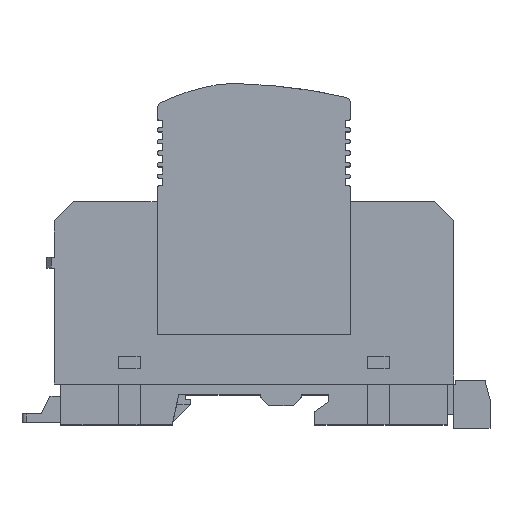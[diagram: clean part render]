
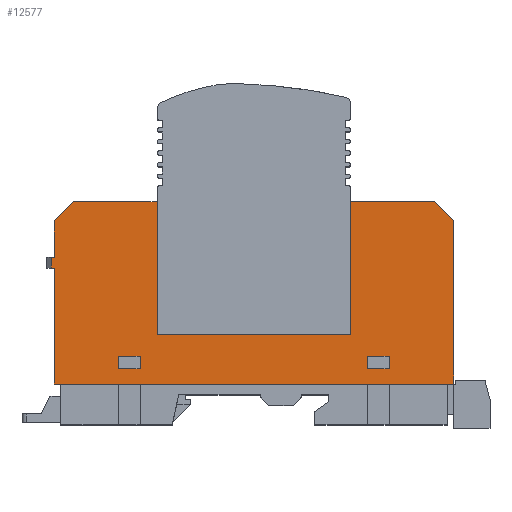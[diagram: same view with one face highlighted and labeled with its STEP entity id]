
A CAD part, top view. The second image highlights one B-rep face of the part: STEP entity #12577.
In plain terms, the highlighted planar face has unit normal (0, 0, 1).
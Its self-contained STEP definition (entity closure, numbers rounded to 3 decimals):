
#124=FACE_BOUND('',#1487,.T.);
#125=FACE_BOUND('',#1488,.T.);
#778=FACE_OUTER_BOUND('',#1486,.T.);
#1486=EDGE_LOOP('',(#9028,#9029,#9030,#9031,#9032,#9033,#9034,#9035,#9036,
#9037,#9038,#9039,#9040,#9041));
#1487=EDGE_LOOP('',(#9042,#9043,#9044,#9045));
#1488=EDGE_LOOP('',(#9046,#9047,#9048,#9049));
#2225=LINE('',#18177,#3717);
#2229=LINE('',#18185,#3721);
#2232=LINE('',#18191,#3724);
#2235=LINE('',#18196,#3727);
#2237=LINE('',#18202,#3729);
#2241=LINE('',#18210,#3733);
#2244=LINE('',#18216,#3736);
#2247=LINE('',#18221,#3739);
#2354=LINE('',#18437,#3846);
#2409=LINE('',#18548,#3901);
#2464=LINE('',#18659,#3956);
#2510=LINE('',#18766,#4002);
#2517=LINE('',#18784,#4009);
#2537=LINE('',#18838,#4029);
#2539=LINE('',#18843,#4031);
#2541=LINE('',#18846,#4033);
#2542=LINE('',#18847,#4034);
#2543=LINE('',#18848,#4035);
#2544=LINE('',#18850,#4036);
#2545=LINE('',#18852,#4037);
#2546=LINE('',#18853,#4038);
#2547=LINE('',#18854,#4039);
#3717=VECTOR('',#14649,10.);
#3721=VECTOR('',#14655,10.);
#3724=VECTOR('',#14660,10.);
#3727=VECTOR('',#14665,10.);
#3729=VECTOR('',#14671,10.);
#3733=VECTOR('',#14677,10.);
#3736=VECTOR('',#14682,10.);
#3739=VECTOR('',#14687,10.);
#3846=VECTOR('',#14866,10.);
#3901=VECTOR('',#14959,10.);
#3956=VECTOR('',#15052,10.);
#4002=VECTOR('',#15170,10.);
#4009=VECTOR('',#15185,10.);
#4029=VECTOR('',#15243,10.);
#4031=VECTOR('',#15247,10.);
#4033=VECTOR('',#15251,10.);
#4034=VECTOR('',#15252,10.);
#4035=VECTOR('',#15253,10.);
#4036=VECTOR('',#15254,10.);
#4037=VECTOR('',#15255,10.);
#4038=VECTOR('',#15256,10.);
#4039=VECTOR('',#15257,10.);
#5148=VERTEX_POINT('',#18175);
#5149=VERTEX_POINT('',#18176);
#5152=VERTEX_POINT('',#18184);
#5154=VERTEX_POINT('',#18190);
#5156=VERTEX_POINT('',#18200);
#5157=VERTEX_POINT('',#18201);
#5160=VERTEX_POINT('',#18209);
#5162=VERTEX_POINT('',#18215);
#5235=VERTEX_POINT('',#18434);
#5236=VERTEX_POINT('',#18436);
#5272=VERTEX_POINT('',#18545);
#5273=VERTEX_POINT('',#18547);
#5309=VERTEX_POINT('',#18656);
#5310=VERTEX_POINT('',#18658);
#5334=VERTEX_POINT('',#18763);
#5335=VERTEX_POINT('',#18765);
#5339=VERTEX_POINT('',#18777);
#5342=VERTEX_POINT('',#18782);
#5357=VERTEX_POINT('',#18836);
#5359=VERTEX_POINT('',#18841);
#5360=VERTEX_POINT('',#18849);
#5361=VERTEX_POINT('',#18851);
#6412=EDGE_CURVE('',#5148,#5149,#2225,.T.);
#6416=EDGE_CURVE('',#5149,#5152,#2229,.T.);
#6419=EDGE_CURVE('',#5152,#5154,#2232,.T.);
#6422=EDGE_CURVE('',#5154,#5148,#2235,.T.);
#6424=EDGE_CURVE('',#5156,#5157,#2237,.T.);
#6428=EDGE_CURVE('',#5157,#5160,#2241,.T.);
#6431=EDGE_CURVE('',#5160,#5162,#2244,.T.);
#6434=EDGE_CURVE('',#5162,#5156,#2247,.T.);
#6541=EDGE_CURVE('',#5236,#5235,#2354,.T.);
#6596=EDGE_CURVE('',#5273,#5272,#2409,.T.);
#6651=EDGE_CURVE('',#5310,#5309,#2464,.T.);
#6700=EDGE_CURVE('',#5335,#5334,#2510,.T.);
#6709=EDGE_CURVE('',#5339,#5342,#2517,.T.);
#6736=EDGE_CURVE('',#5235,#5357,#2537,.T.);
#6738=EDGE_CURVE('',#5359,#5357,#2539,.T.);
#6740=EDGE_CURVE('',#5359,#5273,#2541,.T.);
#6741=EDGE_CURVE('',#5272,#5310,#2542,.T.);
#6742=EDGE_CURVE('',#5309,#5335,#2543,.T.);
#6743=EDGE_CURVE('',#5334,#5360,#2544,.T.);
#6744=EDGE_CURVE('',#5360,#5361,#2545,.T.);
#6745=EDGE_CURVE('',#5361,#5339,#2546,.T.);
#6746=EDGE_CURVE('',#5342,#5236,#2547,.T.);
#9028=ORIENTED_EDGE('',*,*,#6738,.F.);
#9029=ORIENTED_EDGE('',*,*,#6740,.T.);
#9030=ORIENTED_EDGE('',*,*,#6596,.T.);
#9031=ORIENTED_EDGE('',*,*,#6741,.T.);
#9032=ORIENTED_EDGE('',*,*,#6651,.T.);
#9033=ORIENTED_EDGE('',*,*,#6742,.T.);
#9034=ORIENTED_EDGE('',*,*,#6700,.T.);
#9035=ORIENTED_EDGE('',*,*,#6743,.T.);
#9036=ORIENTED_EDGE('',*,*,#6744,.T.);
#9037=ORIENTED_EDGE('',*,*,#6745,.T.);
#9038=ORIENTED_EDGE('',*,*,#6709,.T.);
#9039=ORIENTED_EDGE('',*,*,#6746,.T.);
#9040=ORIENTED_EDGE('',*,*,#6541,.T.);
#9041=ORIENTED_EDGE('',*,*,#6736,.T.);
#9042=ORIENTED_EDGE('',*,*,#6412,.T.);
#9043=ORIENTED_EDGE('',*,*,#6416,.T.);
#9044=ORIENTED_EDGE('',*,*,#6419,.T.);
#9045=ORIENTED_EDGE('',*,*,#6422,.T.);
#9046=ORIENTED_EDGE('',*,*,#6424,.T.);
#9047=ORIENTED_EDGE('',*,*,#6428,.T.);
#9048=ORIENTED_EDGE('',*,*,#6431,.T.);
#9049=ORIENTED_EDGE('',*,*,#6434,.T.);
#11768=PLANE('',#13447);
#12577=ADVANCED_FACE('',(#778,#124,#125),#11768,.T.);
#13447=AXIS2_PLACEMENT_3D('',#18845,#15249,#15250);
#14649=DIRECTION('',(0.,-1.,0.));
#14655=DIRECTION('',(-1.,0.,0.));
#14660=DIRECTION('',(0.,1.,0.));
#14665=DIRECTION('',(1.,0.,0.));
#14671=DIRECTION('',(0.,-1.,0.));
#14677=DIRECTION('',(-1.,0.,0.));
#14682=DIRECTION('',(0.,1.,0.));
#14687=DIRECTION('',(1.,0.,0.));
#14866=DIRECTION('',(0.,-1.,0.));
#14959=DIRECTION('',(0.,-1.,0.));
#15052=DIRECTION('',(0.,1.,0.));
#15170=DIRECTION('',(-1.,0.,0.));
#15185=DIRECTION('',(-1.,0.,0.));
#15243=DIRECTION('',(-1.,0.,0.));
#15247=DIRECTION('',(0.,1.,0.));
#15249=DIRECTION('center_axis',(0.,0.,1.));
#15250=DIRECTION('ref_axis',(1.,0.,0.));
#15251=DIRECTION('',(1.,0.,0.));
#15252=DIRECTION('',(1.,0.,0.));
#15253=DIRECTION('',(-0.707,0.707,0.));
#15254=DIRECTION('',(0.,-1.,0.));
#15255=DIRECTION('',(-1.,0.,0.));
#15256=DIRECTION('',(0.,1.,0.));
#15257=DIRECTION('',(-0.707,-0.707,0.));
#18175=CARTESIAN_POINT('',(-26.5,-23.75,53.));
#18176=CARTESIAN_POINT('',(-26.5,-26.75,53.));
#18177=CARTESIAN_POINT('',(-26.5,-17.235,53.));
#18184=CARTESIAN_POINT('',(-31.5,-26.75,53.));
#18185=CARTESIAN_POINT('',(-15.81,-26.75,53.));
#18190=CARTESIAN_POINT('',(-31.5,-23.75,53.));
#18191=CARTESIAN_POINT('',(-31.5,-15.735,53.));
#18196=CARTESIAN_POINT('',(-13.31,-23.75,53.));
#18200=CARTESIAN_POINT('',(31.5,-23.75,53.));
#18201=CARTESIAN_POINT('',(31.5,-26.75,53.));
#18202=CARTESIAN_POINT('',(31.5,-17.235,53.));
#18209=CARTESIAN_POINT('',(26.5,-26.75,53.));
#18210=CARTESIAN_POINT('',(13.19,-26.75,53.));
#18215=CARTESIAN_POINT('',(26.5,-23.75,53.));
#18216=CARTESIAN_POINT('',(26.5,-15.735,53.));
#18221=CARTESIAN_POINT('',(15.69,-23.75,53.));
#18434=CARTESIAN_POINT('',(-46.5,-0.75,53.));
#18436=CARTESIAN_POINT('',(-46.5,7.75,53.));
#18437=CARTESIAN_POINT('',(-46.5,7.75,53.));
#18545=CARTESIAN_POINT('',(-46.5,-30.25,53.));
#18547=CARTESIAN_POINT('',(-46.5,-3.25,53.));
#18548=CARTESIAN_POINT('',(-46.5,-3.25,53.));
#18656=CARTESIAN_POINT('',(46.5,7.75,53.));
#18658=CARTESIAN_POINT('',(46.5,-30.25,53.));
#18659=CARTESIAN_POINT('',(46.5,-30.25,53.));
#18763=CARTESIAN_POINT('',(22.55,12.25,53.));
#18765=CARTESIAN_POINT('',(42.,12.25,53.));
#18766=CARTESIAN_POINT('',(42.,12.25,53.));
#18777=CARTESIAN_POINT('',(-22.55,12.25,53.));
#18782=CARTESIAN_POINT('',(-42.,12.25,53.));
#18784=CARTESIAN_POINT('',(-22.5,12.25,53.));
#18836=CARTESIAN_POINT('',(-47.2,-0.75,53.));
#18838=CARTESIAN_POINT('',(-46.5,-0.75,53.));
#18841=CARTESIAN_POINT('',(-47.2,-3.25,53.));
#18843=CARTESIAN_POINT('',(-47.2,-4.235,53.));
#18845=CARTESIAN_POINT('Origin',(-0.121,-7.72,53.));
#18846=CARTESIAN_POINT('',(-48.2,-3.25,53.));
#18847=CARTESIAN_POINT('',(-46.5,-30.25,53.));
#18848=CARTESIAN_POINT('',(46.5,7.75,53.));
#18849=CARTESIAN_POINT('',(22.55,-18.75,53.));
#18850=CARTESIAN_POINT('',(22.55,2.265,53.));
#18851=CARTESIAN_POINT('',(-22.55,-18.75,53.));
#18852=CARTESIAN_POINT('',(11.215,-18.75,53.));
#18853=CARTESIAN_POINT('',(-22.55,-13.235,53.));
#18854=CARTESIAN_POINT('',(-42.,12.25,53.));
